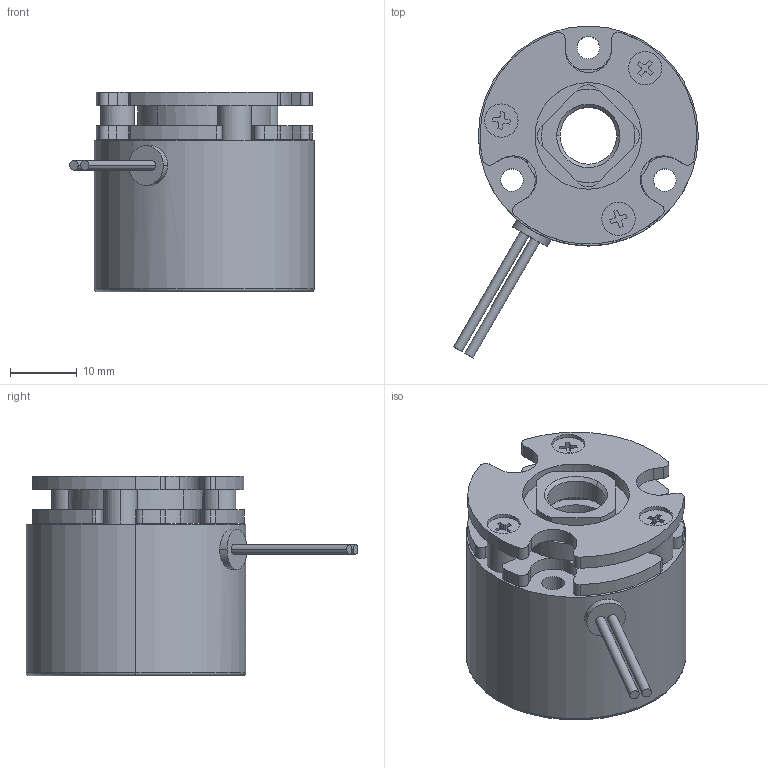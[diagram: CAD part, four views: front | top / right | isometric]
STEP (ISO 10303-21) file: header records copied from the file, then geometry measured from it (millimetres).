
FILE_DESCRIPTION (( 'STEP AP214' ), '1' );
FILE_NAME ('BXW-01-10R.STEP', '2017-09-06T01:21:55', ( 'MIKI' ), ( '' ), 'SwSTEP 2.0', 'SolidWorks 2012', '' );
FILE_SCHEMA (( 'AUTOMOTIVE_DESIGN' ));
Length unit declared in the file: millimetre
Products named in the file (1): BXW-01-10R
Bounding box: 36.7 x 49.81 x 30 mm (x, y, z)
Volume: 20529 mm3; surface area: 9349.2 mm2
Topology: 1 solids, 1 shells, 215 faces, 578 edges, 376 vertices
Faces by surface type: cylinder 112, plane 95, torus 4, cone 4
Entity records: 9309 total; most frequent: DIRECTION 1266, CARTESIAN_POINT 1234, ORIENTED_EDGE 1156, EDGE_CURVE 578, AXIS2_PLACEMENT_3D 474, VERTEX_POINT 376, VECTOR 318, LINE 318
